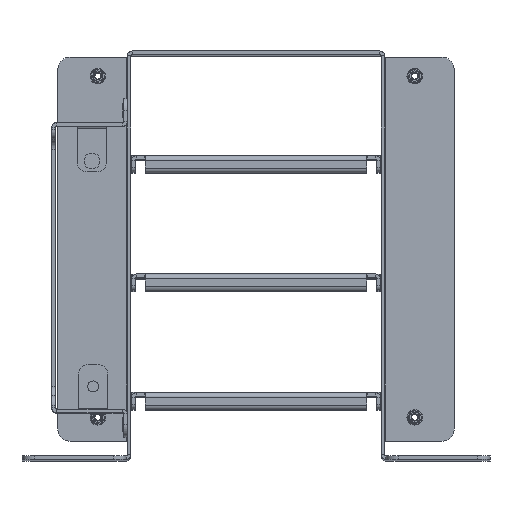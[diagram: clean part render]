
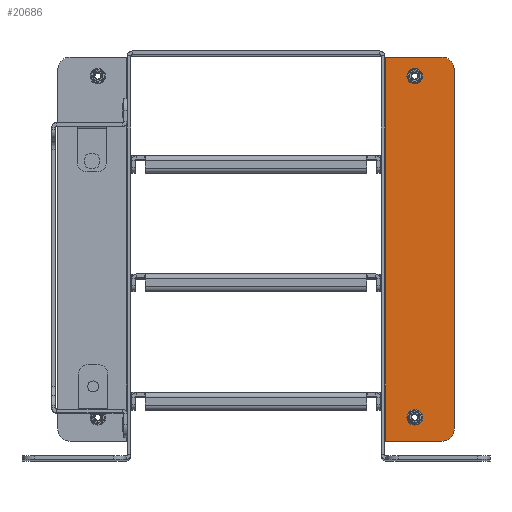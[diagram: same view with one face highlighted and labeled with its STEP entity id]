
A CAD part, top view. The second image highlights one B-rep face of the part: STEP entity #20686.
In plain terms, the highlighted planar face has unit normal (0, 0, 1).
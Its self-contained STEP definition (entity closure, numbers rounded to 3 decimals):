
#369 = VERTEX_POINT ( 'NONE', #28160 ) ;
#952 = CIRCLE ( 'NONE', #23201, 2.11 ) ;
#1014 = ORIENTED_EDGE ( 'NONE', *, *, #21988, .T. ) ;
#1380 = CARTESIAN_POINT ( 'NONE',  ( 65.12, 151.75, -164.4 ) ) ;
#1469 = VECTOR ( 'NONE', #19591, 1000. ) ;
#2975 = LINE ( 'NONE', #6142, #13537 ) ;
#4488 = ORIENTED_EDGE ( 'NONE', *, *, #6577, .F. ) ;
#5344 = LINE ( 'NONE', #28250, #24760 ) ;
#5515 = CARTESIAN_POINT ( 'NONE',  ( 76.3, 2., -164.4 ) ) ;
#5601 = CARTESIAN_POINT ( 'NONE',  ( 53.3, 159.5, -164.4 ) ) ;
#5695 = DIRECTION ( 'NONE',  ( 1., 0., 0. ) ) ;
#5856 = CIRCLE ( 'NONE', #16746, 5. ) ;
#6042 = CARTESIAN_POINT ( 'NONE',  ( 76.3, 154.5, -164.4 ) ) ;
#6142 = CARTESIAN_POINT ( 'NONE',  ( 53.3, 2., -164.4 ) ) ;
#6206 = DIRECTION ( 'NONE',  ( 0., 0., 1. ) ) ;
#6305 = DIRECTION ( 'NONE',  ( 1., 0., 0. ) ) ;
#6348 = CARTESIAN_POINT ( 'NONE',  ( 65.12, 11.75, -164.4 ) ) ;
#6356 = VERTEX_POINT ( 'NONE', #5515 ) ;
#6577 = EDGE_CURVE ( 'NONE', #23209, #13872, #20447, .T. ) ;
#6614 = DIRECTION ( 'NONE',  ( 0., 0., 1. ) ) ;
#6785 = FACE_BOUND ( 'NONE', #11767, .T. ) ;
#7094 = CARTESIAN_POINT ( 'NONE',  ( 81.3, 154.5, -164.4 ) ) ;
#7964 = VERTEX_POINT ( 'NONE', #7094 ) ;
#8243 = EDGE_CURVE ( 'NONE', #369, #14365, #2975, .T. ) ;
#8336 = DIRECTION ( 'NONE',  ( 0., 0., 1. ) ) ;
#8538 = CIRCLE ( 'NONE', #15823, 2.11 ) ;
#8948 = CARTESIAN_POINT ( 'NONE',  ( 65.12, 11.75, -164.4 ) ) ;
#9715 = FACE_OUTER_BOUND ( 'NONE', #20736, .T. ) ;
#10310 = VERTEX_POINT ( 'NONE', #19640 ) ;
#11022 = ORIENTED_EDGE ( 'NONE', *, *, #13168, .F. ) ;
#11083 = CARTESIAN_POINT ( 'NONE',  ( 65.12, 151.75, -164.4 ) ) ;
#11349 = EDGE_CURVE ( 'NONE', #13872, #23209, #8538, .T. ) ;
#11430 = DIRECTION ( 'NONE',  ( 0., 0., 1. ) ) ;
#11767 = EDGE_LOOP ( 'NONE', ( #25001, #15347 ) ) ;
#11832 = VERTEX_POINT ( 'NONE', #25934 ) ;
#13168 = EDGE_CURVE ( 'NONE', #14365, #11832, #26412, .T. ) ;
#13537 = VECTOR ( 'NONE', #15530, 1000. ) ;
#13872 = VERTEX_POINT ( 'NONE', #19758 ) ;
#13877 = DIRECTION ( 'NONE',  ( 0., 0., 1. ) ) ;
#14123 = DIRECTION ( 'NONE',  ( 0., -1., 0. ) ) ;
#14365 = VERTEX_POINT ( 'NONE', #5601 ) ;
#14462 = CARTESIAN_POINT ( 'NONE',  ( 76.3, 7., -164.4 ) ) ;
#14509 = CIRCLE ( 'NONE', #29471, 2.11 ) ;
#15214 = DIRECTION ( 'NONE',  ( 1., 0., 0. ) ) ;
#15337 = EDGE_CURVE ( 'NONE', #6356, #20918, #19450, .T. ) ;
#15347 = ORIENTED_EDGE ( 'NONE', *, *, #26010, .F. ) ;
#15530 = DIRECTION ( 'NONE',  ( 0., 1., 0. ) ) ;
#15823 = AXIS2_PLACEMENT_3D ( 'NONE', #1380, #6206, #6305 ) ;
#16054 = DIRECTION ( 'NONE',  ( 1., 0., 0. ) ) ;
#16746 = AXIS2_PLACEMENT_3D ( 'NONE', #6042, #8336, #20487 ) ;
#16920 = LINE ( 'NONE', #17418, #20951 ) ;
#17255 = EDGE_CURVE ( 'NONE', #7964, #20918, #5344, .T. ) ;
#17418 = CARTESIAN_POINT ( 'NONE',  ( 52.8, 2., -164.4 ) ) ;
#17906 = ORIENTED_EDGE ( 'NONE', *, *, #8243, .F. ) ;
#18103 = ORIENTED_EDGE ( 'NONE', *, *, #15337, .T. ) ;
#18501 = CARTESIAN_POINT ( 'NONE',  ( 81.3, 7., -164.4 ) ) ;
#18646 = CARTESIAN_POINT ( 'NONE',  ( 0., 0., -164.4 ) ) ;
#18709 = CARTESIAN_POINT ( 'NONE',  ( 67.23, 151.75, -164.4 ) ) ;
#19450 = CIRCLE ( 'NONE', #22820, 5. ) ;
#19591 = DIRECTION ( 'NONE',  ( 1., 0., 0. ) ) ;
#19629 = DIRECTION ( 'NONE',  ( 0., 0., 1. ) ) ;
#19640 = CARTESIAN_POINT ( 'NONE',  ( 63.01, 11.75, -164.4 ) ) ;
#19758 = CARTESIAN_POINT ( 'NONE',  ( 63.01, 151.75, -164.4 ) ) ;
#19788 = DIRECTION ( 'NONE',  ( -1., 0., 0. ) ) ;
#20447 = CIRCLE ( 'NONE', #22541, 2.11 ) ;
#20487 = DIRECTION ( 'NONE',  ( 1., 0., 0. ) ) ;
#20686 = ADVANCED_FACE ( 'NONE', ( #6785, #22228, #9715 ), #26696, .T. ) ;
#20736 = EDGE_LOOP ( 'NONE', ( #23590, #18103, #27939, #1014, #11022, #17906 ) ) ;
#20918 = VERTEX_POINT ( 'NONE', #18501 ) ;
#20951 = VECTOR ( 'NONE', #19788, 1000. ) ;
#20986 = CARTESIAN_POINT ( 'NONE',  ( 67.23, 11.75, -164.4 ) ) ;
#21021 = DIRECTION ( 'NONE',  ( 1., 0., 0. ) ) ;
#21988 = EDGE_CURVE ( 'NONE', #7964, #11832, #5856, .T. ) ;
#22228 = FACE_BOUND ( 'NONE', #30219, .T. ) ;
#22435 = DIRECTION ( 'NONE',  ( 0., 0., 1. ) ) ;
#22541 = AXIS2_PLACEMENT_3D ( 'NONE', #11083, #6614, #29939 ) ;
#22820 = AXIS2_PLACEMENT_3D ( 'NONE', #14462, #19629, #5695 ) ;
#23201 = AXIS2_PLACEMENT_3D ( 'NONE', #8948, #11430, #16054 ) ;
#23209 = VERTEX_POINT ( 'NONE', #18709 ) ;
#23590 = ORIENTED_EDGE ( 'NONE', *, *, #29924, .F. ) ;
#24760 = VECTOR ( 'NONE', #14123, 1000. ) ;
#25001 = ORIENTED_EDGE ( 'NONE', *, *, #25863, .F. ) ;
#25863 = EDGE_CURVE ( 'NONE', #10310, #29087, #14509, .T. ) ;
#25934 = CARTESIAN_POINT ( 'NONE',  ( 76.3, 159.5, -164.4 ) ) ;
#26010 = EDGE_CURVE ( 'NONE', #29087, #10310, #952, .T. ) ;
#26412 = LINE ( 'NONE', #29026, #1469 ) ;
#26696 = PLANE ( 'NONE',  #26712 ) ;
#26712 = AXIS2_PLACEMENT_3D ( 'NONE', #18646, #13877, #21021 ) ;
#27939 = ORIENTED_EDGE ( 'NONE', *, *, #17255, .F. ) ;
#28160 = CARTESIAN_POINT ( 'NONE',  ( 53.3, 2., -164.4 ) ) ;
#28250 = CARTESIAN_POINT ( 'NONE',  ( 81.3, 2., -164.4 ) ) ;
#29026 = CARTESIAN_POINT ( 'NONE',  ( 81.3, 159.5, -164.4 ) ) ;
#29087 = VERTEX_POINT ( 'NONE', #20986 ) ;
#29471 = AXIS2_PLACEMENT_3D ( 'NONE', #6348, #22435, #15214 ) ;
#29741 = ORIENTED_EDGE ( 'NONE', *, *, #11349, .F. ) ;
#29924 = EDGE_CURVE ( 'NONE', #6356, #369, #16920, .T. ) ;
#29939 = DIRECTION ( 'NONE',  ( 1., 0., 0. ) ) ;
#30219 = EDGE_LOOP ( 'NONE', ( #29741, #4488 ) ) ;
